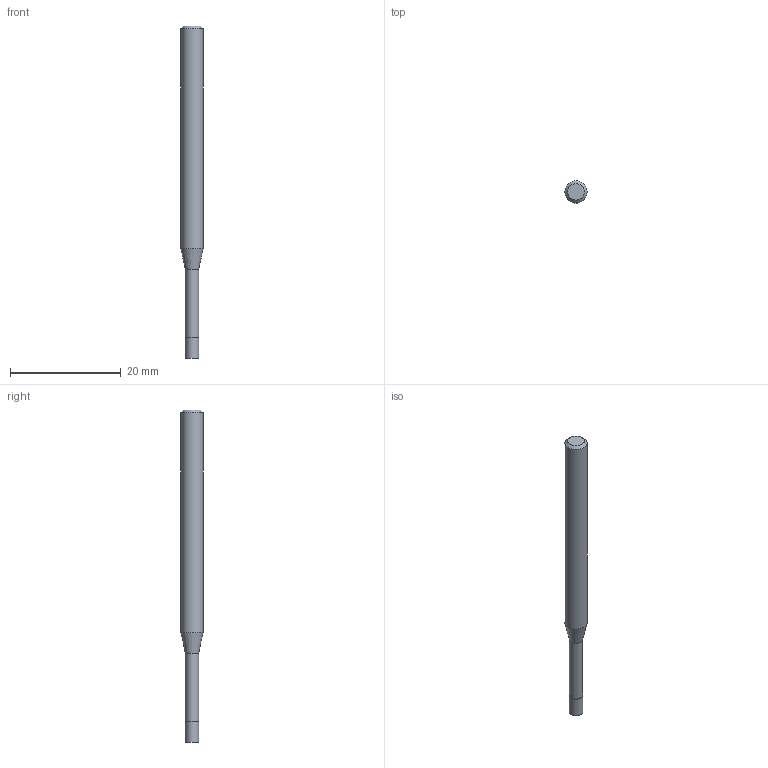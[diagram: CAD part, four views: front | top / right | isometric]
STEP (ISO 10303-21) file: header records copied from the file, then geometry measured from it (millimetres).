
FILE_DESCRIPTION((''),'2;1');
FILE_NAME('C:\Users\nsx150\AppData\Local\Temp\Mastercam 2021\17T8Q8S9EB\TEMP.step','2021-04-21T16:15:55',(''),(''),'STEP Write','Mastercam 2021 ... CNC Software, Inc.','');
FILE_SCHEMA(('AUTOMOTIVE_DESIGN'));
Length unit declared in the file: millimetre
Products named in the file (1): None
Bounding box: 4 x 4 x 60 mm (x, y, z)
Volume: 608.9 mm3; surface area: 689 mm2
Topology: 2 solids, 2 shells, 9 faces, 12 edges, 7 vertices
Faces by surface type: plane 4, cylinder 3, cone 2
Full cylindrical faces by diameter (mm): 2.4 x1, 2.5 x1, 4 x1
Entity records: 211 total; most frequent: DIRECTION 36, CARTESIAN_POINT 25, AXIS2_PLACEMENT_3D 18, ORIENTED_EDGE 14, EDGE_LOOP 14, STYLED_ITEM 12, ADVANCED_FACE 9, FACE_BOUND 8
